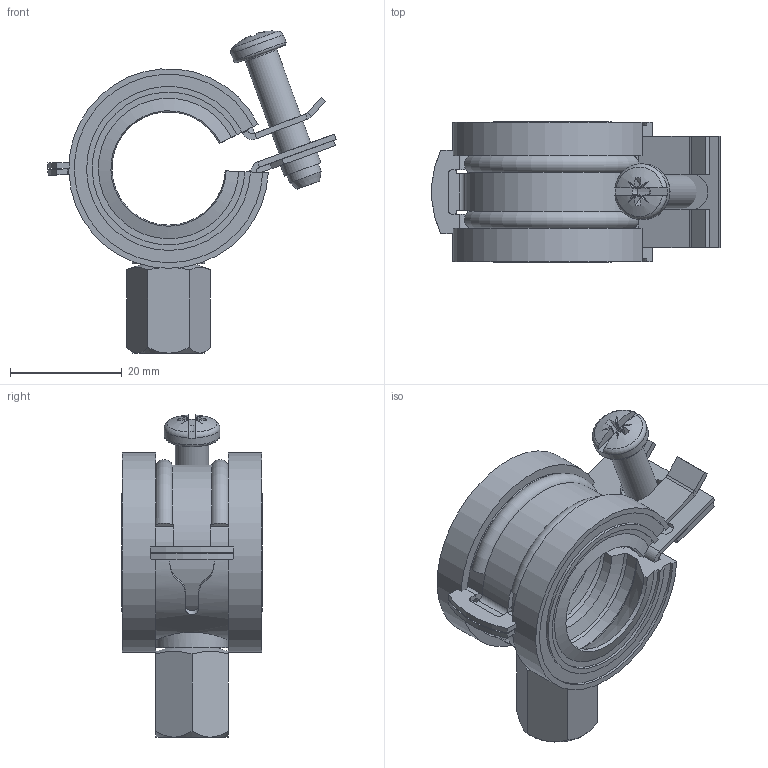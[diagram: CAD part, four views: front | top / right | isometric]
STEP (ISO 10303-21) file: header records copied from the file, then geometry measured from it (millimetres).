
FILE_DESCRIPTION(/* description */ (''),/* implementation_level */ '2;1');
FILE_NAME(/* name */ 'Schelle_Gr. 0_301665.stp',/* time_stamp */ '2024-11-07T08:18:18+01:00',/* author */ ('ASc'),/* organization */ (''),/* preprocessor_version */ 'ST-DEVELOPER v19.2',/* originating_system */ 'Autodesk Inventor 2023',/* authorisation */ '');
FILE_SCHEMA (('AUTOMOTIVE_DESIGN { 1 0 10303 214 3 1 1 }'));
Length unit declared in the file: millimetre
Products named in the file (1): Schelle_Gr. 0_301665
Bounding box: 51.72 x 25.23 x 57.77 mm (x, y, z)
Volume: 13074.1 mm3; surface area: 16071.5 mm2
Topology: 6 solids, 6 shells, 272 faces, 711 edges, 450 vertices
Faces by surface type: plane 152, cylinder 62, cone 30, bspline 19, torus 6, sphere 3
Full cylindrical faces by diameter (mm): 2.5 x2, 5 x1, 6 x1, 6.8 x1, 7 x1, 8.5 x1, 10 x1, 10.5 x1, 13 x1
Entity records: 9417 total; most frequent: CARTESIAN_POINT 2451, ORIENTED_EDGE 1420, DIRECTION 1356, EDGE_CURVE 710, AXIS2_PLACEMENT_3D 476, VERTEX_POINT 450, LINE 404, VECTOR 404
